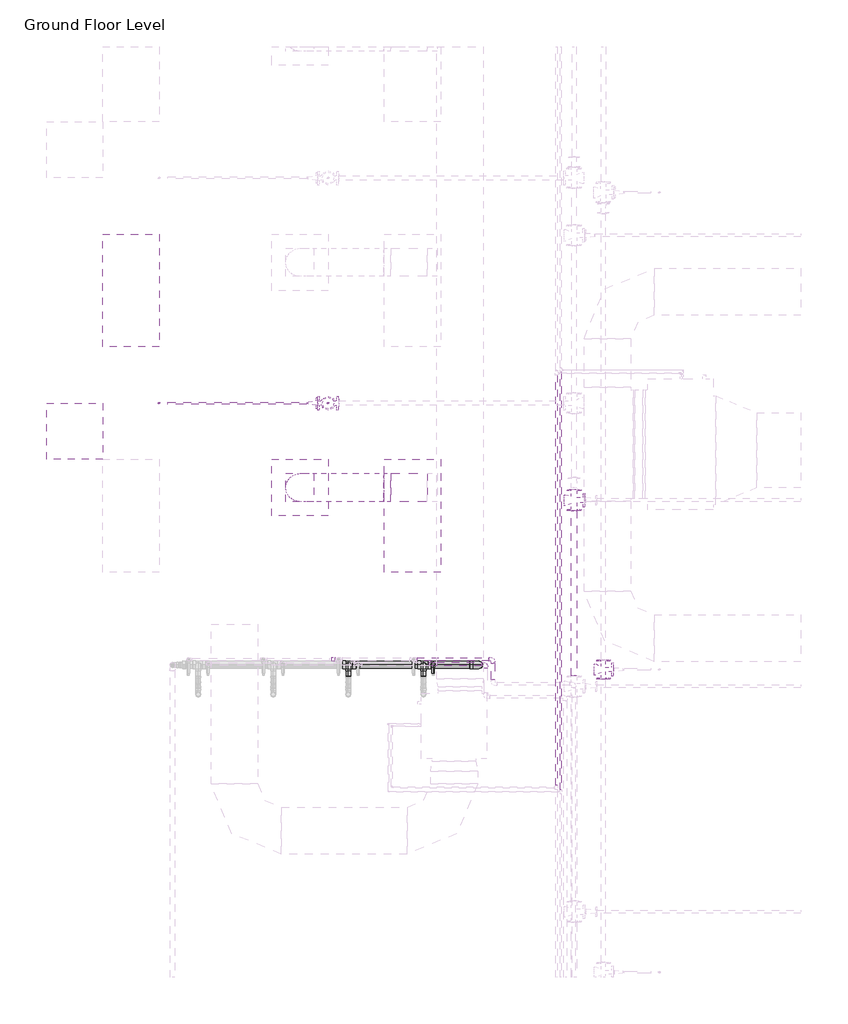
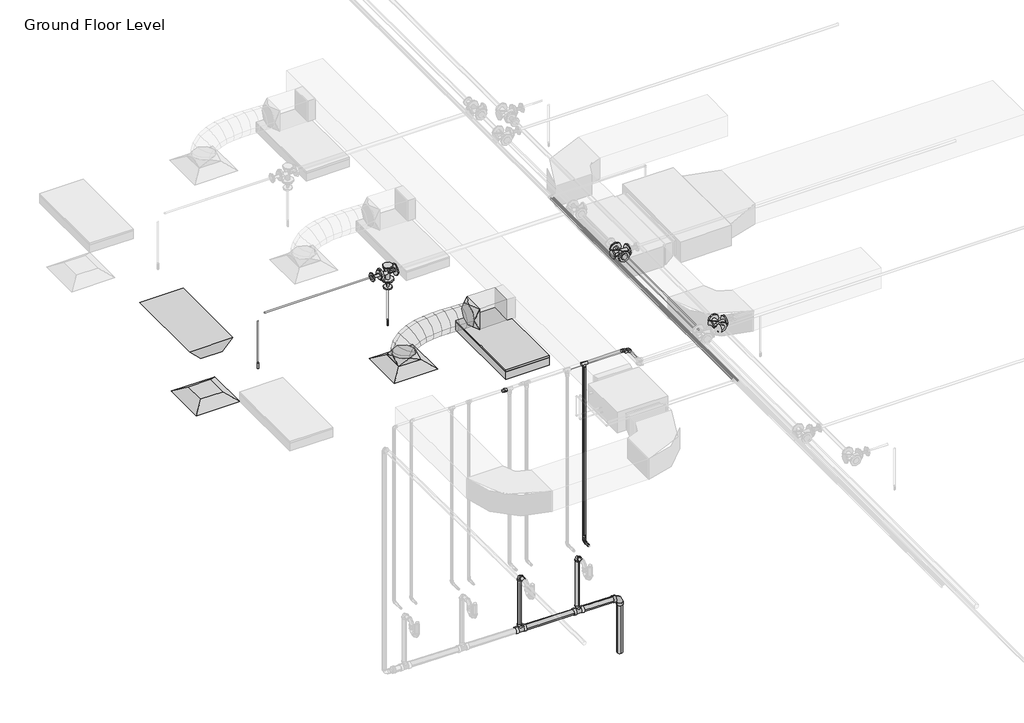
# One storey, part 25 of 75: 18 pipe segments, 16 pipe fittings, 2 air terminals, 2 duct fittings, 2 duct segments, 2 fire suppression terminals, 2 light fixtures.
"""IFC4 building model written with IfcOpenShell, lengths in millimetres."""

from ifc_helpers import new_model, si_unit, point, frame, frame_2d, origin, place, context, project, spatial, polyline, circle_curve, ellipse_curve, trimmed, segment, composite_curve, outline, extrude, transform, mapped, element, save
from ifc_brep_helpers import plane_surface, cylinder_surface, advanced_brep
from components import m_return_diffuser_600_x_600_face_300_x_300_connection_ff221211, m_rectangular_to_round_transition_angle_45_degree_641efff0, m_sprinkler_dry_pendent_hosted_15_mm_dry_pendent_9bda8e11, m_emergency_recessed_lighting_fixture_600x1200_277_5b10b25d, m_troffer_light_parabolic_rectangular1_0600x1200mm_4_lamp_86473d4a, m_bend_pvc_sch_40_dwv_standard_0eeb11e1, m_bend_pvc_sch_40_dwv_standard_1e7bdcc1, m_bend_pvc_sch_40_dwv_standard_b3f66ba9, m_reducer_flanged_cs_class_150_standard_dc68ad9d, m_tee_reducing_sanitary_pvc_sch_40_dwv_standard_21d2848c, m_tee_round_base_flanged_cs_class_150_standard_dd767e04, m_tee_round_base_flanged_cs_class_150_standard_9c9133d0, m_tee_round_base_flanged_cs_class_150_standard_ab36f383, standard_b266ab3f, standard_517a5a8d, standard_72b35c3b, standard_c7dcb452, standard_e5aa6446

model = new_model("IFC4")

# Units and contexts
model_context = context("Model", 3, world=origin())
ifc_project = project(units=[si_unit("LENGTHUNIT", "METRE", prefix="MILLI")], contexts=[model_context])

# Site, building, storey
site = spatial("IfcSite", under=ifc_project)
building = spatial("IfcBuilding", under=site)
storey = spatial("IfcBuildingStorey", under=building, Name="Ground Floor Level", Elevation=900.0)

# Air terminals
placement = place(None, origin())
m_return_diffuser_600_x_600_face_300_x_300_connection_shape = m_return_diffuser_600_x_600_face_300_x_300_connection_ff221211(model_context)
element("IfcAirTerminal", 1, ObjectType="M_Return Diffuser : 600 x 600 Face 300 x 300 Connection", at=placement, inside=storey, context=model_context, shape_type="MappedRepresentation", body=[
    mapped(m_return_diffuser_600_x_600_face_300_x_300_connection_shape, transform((362.7672395, -21364.7846466, 3650.0), x_axis=(1.0, 0.0, 0.0), y_axis=(0.0, 1.0, 0.0), z_axis=(0.0, 0.0, 1.0))),
])
element("IfcAirTerminal", 2, ObjectType="M_Supply Diffuser : 600 x 600 Face 300 x 300 Connection", at=placement, inside=storey, context=model_context, shape_type="MappedRepresentation", body=[
    mapped(m_return_diffuser_600_x_600_face_300_x_300_connection_shape, transform((2762.7672395, -21964.7846466, 3650.0), x_axis=(1.0, 0.0, 0.0), y_axis=(0.0, 1.0, 0.0), z_axis=(0.0, 0.0, 1.0))),
])

# Duct fittings
m_rectangular_to_round_transition_angle_45_degree_shape = m_rectangular_to_round_transition_angle_45_degree_641efff0(model_context)
element("IfcDuctFitting", 3, ObjectType="M_Rectangular to Round Transition - Angle : 45 Degree", at=placement, inside=storey, context=model_context, shape_type="MappedRepresentation", body=[
    mapped(m_rectangular_to_round_transition_angle_45_degree_shape, transform((2762.7672395, -21964.7846466, 3751.6), x_axis=(0.0, 0.0, 1.0), y_axis=(-1.0, 0.0, 0.0), z_axis=(0.0, -1.0, 0.0))),
])
element("IfcDuctFitting", 4, ObjectType="M_Rectangular to Round Transition - Angle : 45 Degree", at=placement, inside=storey, context=model_context, shape_type="MappedRepresentation", body=[
    mapped(m_rectangular_to_round_transition_angle_45_degree_shape, transform((3732.9512129, -21964.7846466, 4057.1519579), x_axis=(-1.0, 0.0, 0.0), y_axis=(0.0, -1.0, 0.0), z_axis=(0.0, 0.0, 1.0))),
])

# Duct segments
element("IfcDuctSegment", 5, ObjectType="Flex - Round", at=placement, inside=storey, context=model_context, shape_type="AdvancedBrep", body=[
    advanced_brep(
    [(2912.7672395, -21964.7846466, 3826.6), (2762.7672395, -22114.7846466, 3826.6), (2612.7672395, -21964.7846466, 3826.6), (2762.7672395, -21814.7846466, 3826.6), (2912.7672395, -21964.7846466, 3832.8904143), (2762.7672395, -22114.7846466, 3856.8494149), (2612.7672395, -21964.7846466, 3880.8084155), (2762.7672395, -21814.7846466, 3856.8494149), (2914.0859082, -21964.7846466, 3836.9129923), (2779.5128239, -22114.7846466, 3907.9315565), (2644.9397396, -21964.7846466, 3978.9501208), (2779.5128239, -21814.7846466, 3907.9315565), (2928.1338147, -21964.7846466, 3855.2244817), (2826.2856906, -22114.7846466, 3968.9001322), (2724.4375665, -21964.7846466, 4082.5757828), (2826.2856906, -21814.7846466, 3968.9001322), (2960.075367, -21964.7846466, 3874.5779986), (2897.8900097, -22114.7846466, 4012.2854816), (2835.7046525, -21964.7846466, 4149.9929645), (2897.8900097, -21814.7846466, 4012.2854816), (3023.3471395, -21964.7846466, 3894.3985509), (2989.1299517, -22114.7846466, 4040.8673589), (2954.9127638, -21964.7846466, 4187.3361668), (2989.1299517, -21814.7846466, 4040.8673589), (3111.2174774, -21964.7846466, 3908.1662907), (3094.8096865, -22114.7846466, 4057.4255186), (3078.4018957, -21964.7846466, 4206.6847465), (3094.8096865, -21814.7846466, 4057.4255186), (3215.0370803, -21964.7846466, 3914.773779), (3209.7333846, -22114.7846466, 4064.7397152), (3204.4296888, -21964.7846466, 4214.7056514), (3209.7333846, -21814.7846466, 4064.7397152), (3327.4369923, -21964.7846466, 3915.576814), (3328.705216, -22114.7846466, 4065.589703), (3329.9734397, -21964.7846466, 4215.6025919), (3328.705216, -21814.7846466, 4065.589703), (3442.2113611, -21964.7846466, 3912.815715), (3446.529351, -22114.7846466, 4062.7552364), (3450.847341, -21964.7846466, 4212.6947579), (3446.529351, -21814.7846466, 4062.7552364), (3554.0566752, -21964.7846466, 3909.0643159), (3558.0099599, -22114.7846466, 4059.0160699), (3561.9632447, -21964.7846466, 4208.9678239), (3558.0099599, -21814.7846466, 4059.0160699), (3657.9512129, -21964.7846466, 3907.1519579), (3657.9512129, -21814.7846466, 4057.1519579), (3657.9512129, -21964.7846466, 4207.1519579), (3657.9512129, -22114.7846466, 4057.1519579), (3653.7148319, -21964.7846466, 3907.1519579), (3655.1538878, -22114.7846466, 4057.1519579), (3656.5929436, -21964.7846466, 4207.1519579), (3655.1538878, -21814.7846466, 4057.1519579)],
    [
        (0, 1, circle_curve(frame((2762.7672395, -21964.7846466, 3826.6), z_axis=(0.0, 0.0, -1.0), x_axis=(1.0, 0.0, 0.0)), 150.0)),
        (1, 2, circle_curve(frame((2762.7672395, -21964.7846466, 3826.6), z_axis=(0.0, 0.0, -1.0), x_axis=(1.0, 0.0, 0.0)), 150.0)),
        (2, 3, circle_curve(frame((2762.7672395, -21964.7846466, 3826.6), z_axis=(0.0, 0.0, -1.0), x_axis=(1.0, 0.0, 0.0)), 150.0)),
        (3, 0, circle_curve(frame((2762.7672395, -21964.7846466, 3826.6), z_axis=(0.0, 0.0, -1.0), x_axis=(1.0, 0.0, 0.0)), 150.0)),
        (0, 4),
        (4, 5, ellipse_curve(frame((2762.7672395, -21964.7846466, 3856.8494149), z_axis=(-0.1577273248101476, 0.0, -0.9874827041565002), x_axis=(0.9874827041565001, 0.0, -0.1577273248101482)), 151.9013947, 150.0)),
        (5, 1),
        (5, 6, ellipse_curve(frame((2762.7672395, -21964.7846466, 3856.8494149), z_axis=(-0.1577273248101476, 0.0, -0.9874827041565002), x_axis=(0.9874827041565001, 0.0, -0.1577273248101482)), 151.9013947, 150.0)),
        (6, 2),
        (6, 7, ellipse_curve(frame((2762.7672395, -21964.7846466, 3856.8494149), z_axis=(-0.1577273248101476, 0.0, -0.9874827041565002), x_axis=(0.9874827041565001, 0.0, -0.1577273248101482)), 151.9013947, 150.0)),
        (7, 3),
        (7, 4, ellipse_curve(frame((2762.7672395, -21964.7846466, 3856.8494149), z_axis=(-0.1577273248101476, 0.0, -0.9874827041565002), x_axis=(0.9874827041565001, 0.0, -0.1577273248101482)), 151.9013947, 150.0)),
        (4, 8),
        (8, 9, ellipse_curve(frame((2779.5128239, -21964.7846466, 3907.9315565), z_axis=(-0.46672716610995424, 0.0, -0.8844013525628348), x_axis=(0.8844013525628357, 0.0, -0.466727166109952)), 152.162911, 150.0)),
        (9, 5),
        (9, 10, ellipse_curve(frame((2779.5128239, -21964.7846466, 3907.9315565), z_axis=(-0.46672716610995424, 0.0, -0.8844013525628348), x_axis=(0.8844013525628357, 0.0, -0.466727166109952)), 152.162911, 150.0)),
        (10, 6),
        (10, 11, ellipse_curve(frame((2779.5128239, -21964.7846466, 3907.9315565), z_axis=(-0.46672716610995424, 0.0, -0.8844013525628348), x_axis=(0.8844013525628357, 0.0, -0.466727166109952)), 152.162911, 150.0)),
        (11, 7),
        (11, 8, ellipse_curve(frame((2779.5128239, -21964.7846466, 3907.9315565), z_axis=(-0.46672716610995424, 0.0, -0.8844013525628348), x_axis=(0.8844013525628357, 0.0, -0.466727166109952)), 152.162911, 150.0)),
        (8, 12),
        (12, 13, ellipse_curve(frame((2826.2856906, -21964.7846466, 3968.9001322), z_axis=(-0.744790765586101, 0.0, -0.6672980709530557), x_axis=(0.6672980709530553, 0.0, -0.7447907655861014)), 152.6276316, 150.0)),
        (13, 9),
        (13, 14, ellipse_curve(frame((2826.2856906, -21964.7846466, 3968.9001322), z_axis=(-0.744790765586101, 0.0, -0.6672980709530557), x_axis=(0.6672980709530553, 0.0, -0.7447907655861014)), 152.6276316, 150.0)),
        (14, 10),
        (14, 15, ellipse_curve(frame((2826.2856906, -21964.7846466, 3968.9001322), z_axis=(-0.744790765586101, 0.0, -0.6672980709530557), x_axis=(0.6672980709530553, 0.0, -0.7447907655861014)), 152.6276316, 150.0)),
        (15, 11),
        (15, 12, ellipse_curve(frame((2826.2856906, -21964.7846466, 3968.9001322), z_axis=(-0.744790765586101, 0.0, -0.6672980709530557), x_axis=(0.6672980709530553, 0.0, -0.7447907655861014)), 152.6276316, 150.0)),
        (12, 16),
        (16, 17, ellipse_curve(frame((2897.8900097, -21964.7846466, 4012.2854816), z_axis=(-0.9113833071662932, 0.0, -0.41155858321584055), x_axis=(0.41155858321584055, 0.0, -0.9113833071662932)), 151.0972187, 150.0)),
        (17, 13),
        (17, 18, ellipse_curve(frame((2897.8900097, -21964.7846466, 4012.2854816), z_axis=(-0.9113833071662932, 0.0, -0.41155858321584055), x_axis=(0.41155858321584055, 0.0, -0.9113833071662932)), 151.0972187, 150.0)),
        (18, 14),
        (18, 19, ellipse_curve(frame((2897.8900097, -21964.7846466, 4012.2854816), z_axis=(-0.9113833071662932, 0.0, -0.41155858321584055), x_axis=(0.41155858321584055, 0.0, -0.9113833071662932)), 151.0972187, 150.0)),
        (19, 15),
        (19, 16, ellipse_curve(frame((2897.8900097, -21964.7846466, 4012.2854816), z_axis=(-0.9113833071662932, 0.0, -0.41155858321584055), x_axis=(0.41155858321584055, 0.0, -0.9113833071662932)), 151.0972187, 150.0)),
        (16, 20),
        (20, 21, ellipse_curve(frame((2989.1299517, -21964.7846466, 4040.8673589), z_axis=(-0.9737806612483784, 0.0, -0.22748895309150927), x_axis=(0.22748895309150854, 0.0, -0.9737806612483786)), 150.4125249, 150.0)),
        (21, 17),
        (21, 22, ellipse_curve(frame((2989.1299517, -21964.7846466, 4040.8673589), z_axis=(-0.9737806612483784, 0.0, -0.22748895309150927), x_axis=(0.22748895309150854, 0.0, -0.9737806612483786)), 150.4125249, 150.0)),
        (22, 18),
        (22, 23, ellipse_curve(frame((2989.1299517, -21964.7846466, 4040.8673589), z_axis=(-0.9737806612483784, 0.0, -0.22748895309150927), x_axis=(0.22748895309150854, 0.0, -0.9737806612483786)), 150.4125249, 150.0)),
        (23, 19),
        (23, 20, ellipse_curve(frame((2989.1299517, -21964.7846466, 4040.8673589), z_axis=(-0.9737806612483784, 0.0, -0.22748895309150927), x_axis=(0.22748895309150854, 0.0, -0.9737806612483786)), 150.4125249, 150.0)),
        (20, 24),
        (24, 25, ellipse_curve(frame((3094.8096865, -21964.7846466, 4057.4255186), z_axis=(-0.9940121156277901, 0.0, -0.109269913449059), x_axis=(0.10926991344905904, 0.0, -0.9940121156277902)), 150.1583588, 150.0)),
        (25, 21),
        (25, 26, ellipse_curve(frame((3094.8096865, -21964.7846466, 4057.4255186), z_axis=(-0.9940121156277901, 0.0, -0.109269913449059), x_axis=(0.10926991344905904, 0.0, -0.9940121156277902)), 150.1583588, 150.0)),
        (26, 22),
        (26, 27, ellipse_curve(frame((3094.8096865, -21964.7846466, 4057.4255186), z_axis=(-0.9940121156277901, 0.0, -0.109269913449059), x_axis=(0.10926991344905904, 0.0, -0.9940121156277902)), 150.1583588, 150.0)),
        (27, 23),
        (27, 24, ellipse_curve(frame((3094.8096865, -21964.7846466, 4057.4255186), z_axis=(-0.9940121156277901, 0.0, -0.109269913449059), x_axis=(0.10926991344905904, 0.0, -0.9940121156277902)), 150.1583588, 150.0)),
        (24, 28),
        (28, 29, ellipse_curve(frame((3209.7333846, -21964.7846466, 4064.7397152), z_axis=(-0.9993752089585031, 0.0, -0.035343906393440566), x_axis=(0.035343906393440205, 0.0, -0.9993752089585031)), 150.0596922, 150.0)),
        (29, 25),
        (29, 30, ellipse_curve(frame((3209.7333846, -21964.7846466, 4064.7397152), z_axis=(-0.9993752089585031, 0.0, -0.035343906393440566), x_axis=(0.035343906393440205, 0.0, -0.9993752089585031)), 150.0596922, 150.0)),
        (30, 26),
        (30, 31, ellipse_curve(frame((3209.7333846, -21964.7846466, 4064.7397152), z_axis=(-0.9993752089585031, 0.0, -0.035343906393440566), x_axis=(0.035343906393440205, 0.0, -0.9993752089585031)), 150.0596922, 150.0)),
        (31, 27),
        (31, 28, ellipse_curve(frame((3209.7333846, -21964.7846466, 4064.7397152), z_axis=(-0.9993752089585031, 0.0, -0.035343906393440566), x_axis=(0.035343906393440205, 0.0, -0.9993752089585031)), 150.0596922, 150.0)),
        (28, 32),
        (32, 33, ellipse_curve(frame((3328.705216, -21964.7846466, 4065.589703), z_axis=(-0.9999642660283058, 0.0, 0.008453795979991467), x_axis=(-0.00845379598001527, 0.0, -0.9999642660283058)), 150.0182497, 150.0)),
        (33, 29),
        (33, 34, ellipse_curve(frame((3328.705216, -21964.7846466, 4065.589703), z_axis=(-0.9999642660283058, 0.0, 0.008453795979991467), x_axis=(-0.00845379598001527, 0.0, -0.9999642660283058)), 150.0182497, 150.0)),
        (34, 30),
        (34, 35, ellipse_curve(frame((3328.705216, -21964.7846466, 4065.589703), z_axis=(-0.9999642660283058, 0.0, 0.008453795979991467), x_axis=(-0.00845379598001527, 0.0, -0.9999642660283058)), 150.0182497, 150.0)),
        (35, 31),
        (35, 32, ellipse_curve(frame((3328.705216, -21964.7846466, 4065.589703), z_axis=(-0.9999642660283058, 0.0, 0.008453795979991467), x_axis=(-0.00845379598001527, 0.0, -0.9999642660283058)), 150.0182497, 150.0)),
        (32, 36),
        (36, 37, ellipse_curve(frame((3446.529351, -21964.7846466, 4062.7552364), z_axis=(-0.9995855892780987, 0.0, 0.028786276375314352), x_axis=(-0.028786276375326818, 0.0, -0.9995855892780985)), 150.0016838, 150.0)),
        (37, 33),
        (37, 38, ellipse_curve(frame((3446.529351, -21964.7846466, 4062.7552364), z_axis=(-0.9995855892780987, 0.0, 0.028786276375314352), x_axis=(-0.028786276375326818, 0.0, -0.9995855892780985)), 150.0016838, 150.0)),
        (38, 34),
        (38, 39, ellipse_curve(frame((3446.529351, -21964.7846466, 4062.7552364), z_axis=(-0.9995855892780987, 0.0, 0.028786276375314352), x_axis=(-0.028786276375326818, 0.0, -0.9995855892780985)), 150.0016838, 150.0)),
        (39, 35),
        (39, 36, ellipse_curve(frame((3446.529351, -21964.7846466, 4062.7552364), z_axis=(-0.9995855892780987, 0.0, 0.028786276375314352), x_axis=(-0.028786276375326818, 0.0, -0.9995855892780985)), 150.0016838, 150.0)),
        (36, 40),
        (40, 41, ellipse_curve(frame((3558.0099599, -21964.7846466, 4059.0160699), z_axis=(-0.999652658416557, 0.0, 0.026354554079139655), x_axis=(0.026354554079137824, 0.0, 0.9996526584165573)), 150.0038566, 150.0)),
        (41, 37),
        (41, 42, ellipse_curve(frame((3558.0099599, -21964.7846466, 4059.0160699), z_axis=(-0.999652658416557, 0.0, 0.026354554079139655), x_axis=(0.026354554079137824, 0.0, 0.9996526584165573)), 150.0038566, 150.0)),
        (42, 38),
        (42, 43, ellipse_curve(frame((3558.0099599, -21964.7846466, 4059.0160699), z_axis=(-0.999652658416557, 0.0, 0.026354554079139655), x_axis=(0.026354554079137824, 0.0, 0.9996526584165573)), 150.0038566, 150.0)),
        (43, 39),
        (43, 40, ellipse_curve(frame((3558.0099599, -21964.7846466, 4059.0160699), z_axis=(-0.999652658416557, 0.0, 0.026354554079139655), x_axis=(0.026354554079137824, 0.0, 0.9996526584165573)), 150.0038566, 150.0)),
        (44, 45, circle_curve(frame((3657.9512129, -21964.7846466, 4057.1519579), z_axis=(1.0, 0.0, 0.0), x_axis=(0.0, 0.0, -1.0)), 150.0)),
        (45, 46, circle_curve(frame((3657.9512129, -21964.7846466, 4057.1519579), z_axis=(1.0, 0.0, 0.0), x_axis=(0.0, 0.0, -1.0)), 150.0)),
        (46, 47, circle_curve(frame((3657.9512129, -21964.7846466, 4057.1519579), z_axis=(1.0, 0.0, 0.0), x_axis=(0.0, 0.0, -1.0)), 150.0)),
        (47, 44, circle_curve(frame((3657.9512129, -21964.7846466, 4057.1519579), z_axis=(1.0, 0.0, 0.0), x_axis=(0.0, 0.0, -1.0)), 150.0)),
        (40, 48),
        (48, 49, ellipse_curve(frame((3655.1538878, -21964.7846466, 4057.1519579), z_axis=(-0.9999539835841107, 0.0, 0.009593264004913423), x_axis=(0.009593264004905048, 0.0, 0.9999539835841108)), 150.0069028, 150.0)),
        (49, 41),
        (49, 50, ellipse_curve(frame((3655.1538878, -21964.7846466, 4057.1519579), z_axis=(-0.9999539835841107, 0.0, 0.009593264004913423), x_axis=(0.009593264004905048, 0.0, 0.9999539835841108)), 150.0069028, 150.0)),
        (50, 42),
        (50, 51, ellipse_curve(frame((3655.1538878, -21964.7846466, 4057.1519579), z_axis=(-0.9999539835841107, 0.0, 0.009593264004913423), x_axis=(0.009593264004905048, 0.0, 0.9999539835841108)), 150.0069028, 150.0)),
        (51, 43),
        (51, 48, ellipse_curve(frame((3655.1538878, -21964.7846466, 4057.1519579), z_axis=(-0.9999539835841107, 0.0, 0.009593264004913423), x_axis=(0.009593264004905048, 0.0, 0.9999539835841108)), 150.0069028, 150.0)),
        (48, 44),
        (47, 49),
        (46, 50),
        (45, 51),
    ],
    [
        plane_surface(frame((2762.7672395, -22114.7846466, 3826.6), z_axis=(0.0, 0.0, -1.0), x_axis=(1.0, 0.0, 0.0))),
        cylinder_surface(frame((2762.7672395, -21964.7846466, 3826.6), z_axis=(0.0, 0.0, -1.0), x_axis=(1.0, 0.0, 0.0)), 150.0),
        cylinder_surface(frame((2762.7672395, -21964.7846466, 3856.8494149), z_axis=(-0.3115060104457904, 0.0, -0.9502441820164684), x_axis=(0.9502441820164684, 0.0, -0.3115060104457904)), 150.0),
        cylinder_surface(frame((2779.5128239, -21964.7846466, 3907.9315565), z_axis=(-0.6086797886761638, 0.0, -0.7934159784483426), x_axis=(0.7934159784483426, 0.0, -0.6086797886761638)), 150.0),
        cylinder_surface(frame((2826.2856906, -21964.7846466, 3968.9001322), z_axis=(-0.8552571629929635, 0.0, -0.5182038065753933), x_axis=(0.5182038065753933, 0.0, -0.8552571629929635)), 150.0),
        cylinder_surface(frame((2897.8900097, -21964.7846466, 4012.2854816), z_axis=(-0.9542731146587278, 0.0, -0.29893615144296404), x_axis=(0.29893615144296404, 0.0, -0.9542731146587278)), 150.0),
        cylinder_surface(frame((2989.1299517, -21964.7846466, 4040.8673589), z_axis=(-0.9879467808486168, 0.0, -0.15479392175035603), x_axis=(0.15479392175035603, 0.0, -0.9879467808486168)), 150.0),
        cylinder_surface(frame((3094.8096865, -21964.7846466, 4057.4255186), z_axis=(-0.997980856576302, 0.0, -0.06351543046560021), x_axis=(0.06351543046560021, 0.0, -0.997980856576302)), 150.0),
        cylinder_surface(frame((3209.7333846, -21964.7846466, 4064.7397152), z_axis=(-0.9999744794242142, 0.0, -0.007144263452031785), x_axis=(0.007144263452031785, 0.0, -0.9999744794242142)), 150.0),
        cylinder_surface(frame((3328.705216, -21964.7846466, 4065.589703), z_axis=(-0.9997107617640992, 0.0, 0.024049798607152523), x_axis=(-0.024049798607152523, 0.0, -0.9997107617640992)), 150.0),
        cylinder_surface(frame((3446.529351, -21964.7846466, 4062.7552364), z_axis=(-0.9994379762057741, 0.0, 0.03352210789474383), x_axis=(-0.03352210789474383, 0.0, -0.9994379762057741)), 150.0),
        plane_surface(frame((3657.9512129, -21964.7846466, 3907.1519579), z_axis=(1.0, 0.0, 0.0), x_axis=(0.0, 1.0, 0.0))),
        cylinder_surface(frame((3558.0099599, -21964.7846466, 4059.0160699), z_axis=(-0.9998159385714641, 0.0, 0.01918564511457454), x_axis=(-0.01918564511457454, 0.0, -0.9998159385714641)), 150.0),
        cylinder_surface(frame((3655.1538878, -21964.7846466, 4057.1519579), z_axis=(-1.0, 0.0, 0.0), x_axis=(0.0, 0.0, -1.0)), 150.0),
    ],
    [
        (0, [[1, 2, 3, 4]]),
        (1, [[-1, 5, 6, 7]]),
        (1, [[-2, -7, 8, 9]]),
        (1, [[-3, -9, 10, 11]]),
        (1, [[-4, -11, 12, -5]]),
        (2, [[-6, 13, 14, 15]]),
        (2, [[-8, -15, 16, 17]]),
        (2, [[-10, -17, 18, 19]]),
        (2, [[-12, -19, 20, -13]]),
        (3, [[-14, 21, 22, 23]]),
        (3, [[-16, -23, 24, 25]]),
        (3, [[-18, -25, 26, 27]]),
        (3, [[-20, -27, 28, -21]]),
        (4, [[-22, 29, 30, 31]]),
        (4, [[-24, -31, 32, 33]]),
        (4, [[-26, -33, 34, 35]]),
        (4, [[-28, -35, 36, -29]]),
        (5, [[-30, 37, 38, 39]]),
        (5, [[-32, -39, 40, 41]]),
        (5, [[-34, -41, 42, 43]]),
        (5, [[-36, -43, 44, -37]]),
        (6, [[-38, 45, 46, 47]]),
        (6, [[-40, -47, 48, 49]]),
        (6, [[-42, -49, 50, 51]]),
        (6, [[-44, -51, 52, -45]]),
        (7, [[-46, 53, 54, 55]]),
        (7, [[-48, -55, 56, 57]]),
        (7, [[-50, -57, 58, 59]]),
        (7, [[-52, -59, 60, -53]]),
        (8, [[-54, 61, 62, 63]]),
        (8, [[-56, -63, 64, 65]]),
        (8, [[-58, -65, 66, 67]]),
        (8, [[-60, -67, 68, -61]]),
        (9, [[-62, 69, 70, 71]]),
        (9, [[-64, -71, 72, 73]]),
        (9, [[-66, -73, 74, 75]]),
        (9, [[-68, -75, 76, -69]]),
        (10, [[-70, 77, 78, 79]]),
        (10, [[-72, -79, 80, 81]]),
        (10, [[-74, -81, 82, 83]]),
        (10, [[-76, -83, 84, -77]]),
        (11, [[85, 86, 87, 88]]),
        (12, [[-78, 89, 90, 91]]),
        (12, [[-80, -91, 92, 93]]),
        (12, [[-82, -93, 94, 95]]),
        (12, [[-84, -95, 96, -89]]),
        (13, [[-90, 97, -88, 98]]),
        (13, [[-92, -98, -87, 99]]),
        (13, [[-94, -99, -86, 100]]),
        (13, [[-96, -100, -85, -97]]),
    ],
),
])
element("IfcDuctSegment", 6, ObjectType="Radius Elbows / Taps", at=placement, inside=storey, context=model_context, shape_type="SweptSolid", body=[
    extrude(outline(polyline([(4117.5581832, -21814.7846466), (4117.5581832, -22114.7846466), (3732.9512129, -22114.7846466), (3732.9512129, -21814.7846466), (4117.5581832, -21814.7846466)])), frame((0.0, 0.0, 3907.1519579), z_axis=(0.0, 0.0, 1.0), x_axis=(1.0, 0.0, 0.0)), (0.0, 0.0, 1.0), 300.0),
])

# Fire suppression terminals
m_sprinkler_dry_pendent_hosted_15_mm_dry_pendent_shape = m_sprinkler_dry_pendent_hosted_15_mm_dry_pendent_9bda8e11(model_context)
element("IfcFireSuppressionTerminal", 7, ObjectType="M_Sprinkler - Dry - Pendent - Hosted : 15 mm Dry Pendent", at=placement, inside=storey, context=model_context, shape_type="MappedRepresentation", body=[
    mapped(m_sprinkler_dry_pendent_hosted_15_mm_dry_pendent_shape, transform((1262.7672395, -21064.7846466, 3650.0), x_axis=(1.0, 0.0, 0.0), y_axis=(0.0, -1.0, 0.0), z_axis=(0.0, 0.0, -1.0))),
])
element("IfcFireSuppressionTerminal", 8, ObjectType="M_Sprinkler - Dry - Pendent - Hosted : 15 mm Dry Pendent", at=placement, inside=storey, context=model_context, shape_type="MappedRepresentation", body=[
    mapped(m_sprinkler_dry_pendent_hosted_15_mm_dry_pendent_shape, transform((3062.7672395, -21064.7846466, 3650.0), x_axis=(1.0, 0.0, 0.0), y_axis=(0.0, -1.0, 0.0), z_axis=(0.0, 0.0, -1.0))),
])

# Light fixtures
m_emergency_recessed_lighting_fixture_600x1200_277_shape = m_emergency_recessed_lighting_fixture_600x1200_277_5b10b25d(model_context)
element("IfcLightFixture", 9, ObjectType="M_Emergency Recessed Lighting Fixture : 600x1200 - 277", at=placement, inside=storey, context=model_context, shape_type="MappedRepresentation", body=[
    mapped(m_emergency_recessed_lighting_fixture_600x1200_277_shape, transform((662.7672395, -20464.7846466, 3650.0), x_axis=(0.0, 1.0, 0.0), y_axis=(-1.0, 0.0, 0.0), z_axis=(0.0, 0.0, 1.0))),
])
m_troffer_light_parabolic_rectangular1_0600x1200mm_4_lamp_shape = m_troffer_light_parabolic_rectangular1_0600x1200mm_4_lamp_86473d4a(model_context)
element("IfcLightFixture", 10, ObjectType="M_Troffer Light - Parabolic Rectangular1 : 0600x1200mm(4 Lamp) - 277V 2", at=placement, inside=storey, context=model_context, shape_type="MappedRepresentation", body=[
    mapped(m_troffer_light_parabolic_rectangular1_0600x1200mm_4_lamp_shape, transform((3903.3013074, -22246.081145, 3650.0), x_axis=(0.0, 1.0, 0.0), y_axis=(-1.0, 0.0, 0.0), z_axis=(0.0, 0.0, 1.0))),
])

# Pipe fittings
m_bend_pvc_sch_40_dwv_standard_shape = m_bend_pvc_sch_40_dwv_standard_0eeb11e1(model_context)
element("IfcPipeFitting", 11, ObjectType="M_Bend - PVC - Sch 40 - DWV : Standard", at=placement, inside=storey, context=model_context, shape_type="MappedRepresentation", body=[
    mapped(m_bend_pvc_sch_40_dwv_standard_shape, transform((4671.3267974, -23854.2948449, 706.9937306), x_axis=(0.9999500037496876, 0.0, -0.009999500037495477), y_axis=(-0.009999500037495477, 0.0, -0.9999500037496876), z_axis=(0.0, 1.0, 0.0))),
])
m_bend_pvc_sch_40_dwv_standard_2_shape = m_bend_pvc_sch_40_dwv_standard_1e7bdcc1(model_context)
element("IfcPipeFitting", 12, ObjectType="M_Bend - PVC - Sch 40 - DWV : Standard", at=placement, inside=storey, context=model_context, shape_type="MappedRepresentation", body=[
    mapped(m_bend_pvc_sch_40_dwv_standard_2_shape, transform((4079.14976, -23854.2948449, 1508.2594199), x_axis=(0.0, 0.9999500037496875, -0.00999950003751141), y_axis=(0.0, -0.00999950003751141, -0.9999500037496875), z_axis=(-1.0, 0.0, 0.0))),
])
m_bend_pvc_sch_40_dwv_standard_3_shape = m_bend_pvc_sch_40_dwv_standard_b3f66ba9(model_context)
element("IfcPipeFitting", 13, ObjectType="M_Bend - PVC - Sch 40 - DWV : Standard", at=placement, inside=storey, context=model_context, shape_type="MappedRepresentation", body=[
    mapped(m_bend_pvc_sch_40_dwv_standard_3_shape, transform((3279.14976, -23854.2948449, 1508.2594199), x_axis=(0.0, 0.9999578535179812, -0.009181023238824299), y_axis=(0.0, -0.009181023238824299, -0.9999578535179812), z_axis=(-1.0, 0.0, 0.0))),
])
m_reducer_flanged_cs_class_150_standard_shape = m_reducer_flanged_cs_class_150_standard_dc68ad9d(model_context)
element("IfcPipeFitting", 14, ObjectType="M_Reducer - Flanged - CS - Class 150 : Standard", at=placement, inside=storey, context=model_context, shape_type="MappedRepresentation", body=[
    mapped(m_reducer_flanged_cs_class_150_standard_shape, transform((2950.5086457, -21064.7846466, 4347.5), x_axis=(-1.0, 0.0, 0.0), y_axis=(0.0, 0.0, 1.0), z_axis=(0.0, 1.0, 0.0))),
])
element("IfcPipeFitting", 15, ObjectType="M_Reducer - Flanged - CS - Class 150 : Standard", at=placement, inside=storey, context=model_context, shape_type="MappedRepresentation", body=[
    mapped(m_reducer_flanged_cs_class_150_standard_shape, transform((3062.7672395, -21064.7846466, 4235.2414062), x_axis=(0.0, 0.0, -1.0), y_axis=(-1.0, 0.0, 0.0), z_axis=(0.0, 1.0, 0.0))),
])
m_tee_reducing_sanitary_pvc_sch_40_dwv_standard_shape = m_tee_reducing_sanitary_pvc_sch_40_dwv_standard_21d2848c(model_context)
element("IfcPipeFitting", 16, ObjectType="M_Tee Reducing Sanitary - PVC - Sch 40 - DWV : Standard", at=placement, inside=storey, context=model_context, shape_type="MappedRepresentation", body=[
    mapped(m_tee_reducing_sanitary_pvc_sch_40_dwv_standard_shape, transform((3279.3782372, -23854.2948449, 721.0632162), x_axis=(-0.9999500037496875, 0.0, 0.009999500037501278), y_axis=(-0.009999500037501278, 0.0, -0.9999500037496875), z_axis=(0.0, -1.0, 0.0))),
])
element("IfcPipeFitting", 17, ObjectType="M_Tee Reducing Sanitary - PVC - Sch 40 - DWV : Standard", at=placement, inside=storey, context=model_context, shape_type="MappedRepresentation", body=[
    mapped(m_tee_reducing_sanitary_pvc_sch_40_dwv_standard_shape, transform((4079.3782372, -23854.2948449, 713.0632162), x_axis=(-0.9999500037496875, 0.0, 0.00999950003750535), y_axis=(-0.00999950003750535, 0.0, -0.9999500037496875), z_axis=(0.0, -1.0, 0.0))),
])
m_tee_round_base_flanged_cs_class_150_standard_shape = m_tee_round_base_flanged_cs_class_150_standard_dd767e04(model_context)
element("IfcPipeFitting", 18, ObjectType="M_Tee Round Base - Flanged - CS - Class 150 : Standard", at=placement, inside=storey, context=model_context, shape_type="MappedRepresentation", body=[
    mapped(m_tee_round_base_flanged_cs_class_150_standard_shape, transform((5684.6174894, -22098.0287346, 4347.5), x_axis=(0.0, -1.0, 0.0), y_axis=(-1.0, 0.0, 0.0), z_axis=(0.0, 0.0, -1.0))),
])
m_tee_round_base_flanged_cs_class_150_standard_2_shape = m_tee_round_base_flanged_cs_class_150_standard_9c9133d0(model_context)
element("IfcPipeFitting", 19, ObjectType="M_Tee Round Base - Flanged - CS - Class 150 : Standard", at=placement, inside=storey, context=model_context, shape_type="MappedRepresentation", body=[
    mapped(m_tee_round_base_flanged_cs_class_150_standard_2_shape, transform((5997.057812, -23903.6779349, 4291.0943441), x_axis=(0.0, 1.0, 0.0), y_axis=(-1.0, 0.0, 0.0), z_axis=(0.0, 0.0, 1.0))),
])
m_tee_round_base_flanged_cs_class_150_standard_3_shape = m_tee_round_base_flanged_cs_class_150_standard_ab36f383(model_context)
element("IfcPipeFitting", 20, ObjectType="M_Tee Round Base - Flanged - CS - Class 150 : Standard", at=placement, inside=storey, context=model_context, shape_type="MappedRepresentation", body=[
    mapped(m_tee_round_base_flanged_cs_class_150_standard_3_shape, transform((3062.7672395, -21064.7846466, 4347.5), x_axis=(-1.0, 0.0, 0.0), y_axis=(0.0, 0.0, 1.0), z_axis=(0.0, 1.0, 0.0))),
])
standard_shape = standard_b266ab3f(model_context)
element("IfcPipeFitting", 21, ObjectType="M_Elbow - CPVC - Sch 40 : Standard", at=placement, inside=storey, context=model_context, shape_type="MappedRepresentation", body=[
    mapped(standard_shape, transform((4183.0647206, -23844.7846466, 1690.0), x_axis=(0.0, 1.0, 0.0), y_axis=(0.0, 0.0, 1.0), z_axis=(1.0, 0.0, 0.0))),
])
standard_2_shape = standard_517a5a8d(model_context)
element("IfcPipeFitting", 22, ObjectType="M_Elbow - CPVC - Sch 40 : Standard", at=placement, inside=storey, context=model_context, shape_type="MappedRepresentation", body=[
    mapped(standard_2_shape, transform((4743.0647206, -23844.7846466, 4300.0), x_axis=(0.0, 1.0, 0.0), y_axis=(-1.0, 0.0, 0.0), z_axis=(0.0, 0.0, 1.0))),
])
element("IfcPipeFitting", 23, ObjectType="M_Elbow - CPVC - Sch 40 : Standard", at=placement, inside=storey, context=model_context, shape_type="MappedRepresentation", body=[
    mapped(standard_2_shape, transform((4820.5575802, -23794.921633, 4250.0), x_axis=(0.0, 1.0, 0.0), y_axis=(-1.0, 0.0, 0.0), z_axis=(0.0, 0.0, 1.0))),
])
standard_3_shape = standard_72b35c3b(model_context)
element("IfcPipeFitting", 24, ObjectType="M_Tee - CPVC - Sch 40 : Standard", at=placement, inside=storey, context=model_context, shape_type="MappedRepresentation", body=[
    mapped(standard_3_shape, transform((4183.0647206, -23844.7846466, 4300.0), x_axis=(-1.0, 0.0, 0.0), y_axis=(0.0, 0.0, 1.0), z_axis=(0.0, 1.0, 0.0))),
])
standard_4_shape = standard_c7dcb452(model_context)
element("IfcPipeFitting", 25, ObjectType="M_Coupling Reducing - CPVC - Sch 40 : Standard", at=placement, inside=storey, context=model_context, shape_type="MappedRepresentation", body=[
    mapped(standard_4_shape, transform((4183.0647206, -23844.7846466, 1725.32505), x_axis=(0.0, 0.0, 1.0), y_axis=(0.0, 1.0, 0.0), z_axis=(-1.0, 0.0, 0.0))),
])
standard_5_shape = standard_e5aa6446(model_context)
element("IfcPipeFitting", 26, ObjectType="M_Coupling Reducing - CPVC - Sch 40 : Standard", at=placement, inside=storey, context=model_context, shape_type="MappedRepresentation", body=[
    mapped(standard_5_shape, transform((3134.7346794, -23794.921633, 4250.0), x_axis=(-1.0, 0.0, 0.0), y_axis=(0.0, -1.0, 0.0), z_axis=(0.0, 0.0, 1.0))),
])

# Pipe segments
element("IfcPipeSegment", 27, ObjectType="CPVC", at=placement, inside=storey, context=model_context, shape_type="SweptSolid", body=[
    extrude(outline(composite_curve([segment(trimmed(circle_curve(frame_2d((1690.0, 4183.0647206)), 13.335), [point((1690.0, 4196.3997206))], [point((1703.335, 4183.0647206))], False, "CARTESIAN"), True, "CONTINUOUS"), segment(trimmed(circle_curve(frame_2d((1690.0, 4183.0647206)), 13.335), [point((1703.335, 4183.0647206))], [point((1690.0, 4169.7297206))], False, "CARTESIAN"), True, "CONTINUOUS"), segment(trimmed(circle_curve(frame_2d((1690.0, 4183.0647206)), 13.335), [point((1690.0, 4169.7297206))], [point((1676.665, 4183.0647206))], False, "CARTESIAN"), True, "CONTINUOUS"), segment(trimmed(circle_curve(frame_2d((1690.0, 4183.0647206)), 13.335), [point((1676.665, 4183.0647206))], [point((1690.0, 4196.3997206))], False, "CARTESIAN"), True, "CONTINUOUS")], self_intersect=False)), frame((0.0, -23944.7846466, 0.0), z_axis=(0.0, 1.0, 0.0), x_axis=(0.0, 0.0, 1.0)), (0.0, 0.0, 1.0), 64.67495),
])
element("IfcPipeSegment", 28, ObjectType="CPVC", at=placement, inside=storey, context=model_context, shape_type="SweptSolid", body=[
    extrude(outline(composite_curve([segment(trimmed(circle_curve(frame_2d((-23844.7846466, 4300.0)), 16.7005), [point((-23861.4851466, 4300.0))], [point((-23844.7846466, 4316.7005))], False, "CARTESIAN"), True, "CONTINUOUS"), segment(trimmed(circle_curve(frame_2d((-23844.7846466, 4300.0)), 16.7005), [point((-23844.7846466, 4316.7005))], [point((-23828.0841466, 4300.0))], False, "CARTESIAN"), True, "CONTINUOUS"), segment(trimmed(circle_curve(frame_2d((-23844.7846466, 4300.0)), 16.7005), [point((-23828.0841466, 4300.0))], [point((-23844.7846466, 4283.2995))], False, "CARTESIAN"), True, "CONTINUOUS"), segment(trimmed(circle_curve(frame_2d((-23844.7846466, 4300.0)), 16.7005), [point((-23844.7846466, 4283.2995))], [point((-23861.4851466, 4300.0))], False, "CARTESIAN"), True, "CONTINUOUS")], self_intersect=False)), frame((4222.7649206, 0.0, 0.0), z_axis=(1.0, 0.0, 0.0), x_axis=(0.0, 1.0, 0.0)), (0.0, 0.0, 1.0), 477.03725),
])
element("IfcPipeSegment", 29, ObjectType="CPVC", at=placement, inside=storey, context=model_context, shape_type="SweptSolid", body=[
    extrude(outline(composite_curve([segment(trimmed(circle_curve(frame_2d((4183.0647206, -23844.7846466)), 16.7005), [point((4166.3642206, -23844.7846466))], [point((4183.0647206, -23828.0841466))], False, "CARTESIAN"), True, "CONTINUOUS"), segment(trimmed(circle_curve(frame_2d((4183.0647206, -23844.7846466)), 16.7005), [point((4183.0647206, -23828.0841466))], [point((4199.7652206, -23844.7846466))], False, "CARTESIAN"), True, "CONTINUOUS"), segment(trimmed(circle_curve(frame_2d((4183.0647206, -23844.7846466)), 16.7005), [point((4199.7652206, -23844.7846466))], [point((4183.0647206, -23861.4851466))], False, "CARTESIAN"), True, "CONTINUOUS"), segment(trimmed(circle_curve(frame_2d((4183.0647206, -23844.7846466)), 16.7005), [point((4183.0647206, -23861.4851466))], [point((4166.3642206, -23844.7846466))], False, "CARTESIAN"), True, "CONTINUOUS")], self_intersect=False)), frame((0.0, 0.0, 1782.47505), z_axis=(0.0, 0.0, 1.0), x_axis=(1.0, 0.0, 0.0)), (0.0, 0.0, 1.0), 2477.82475),
])
element("IfcPipeSegment", 30, ObjectType="CPVC", at=placement, inside=storey, context=model_context, shape_type="SweptSolid", body=[
    extrude(outline(composite_curve([segment(trimmed(circle_curve(frame_2d((4250.0, 4820.5575802)), 16.7005), [point((4250.0, 4837.2580802))], [point((4266.7005, 4820.5575802))], False, "CARTESIAN"), True, "CONTINUOUS"), segment(trimmed(circle_curve(frame_2d((4250.0, 4820.5575802)), 16.7005), [point((4266.7005, 4820.5575802))], [point((4250.0, 4803.8570802))], False, "CARTESIAN"), True, "CONTINUOUS"), segment(trimmed(circle_curve(frame_2d((4250.0, 4820.5575802)), 16.7005), [point((4250.0, 4803.8570802))], [point((4233.2995, 4820.5575802))], False, "CARTESIAN"), True, "CONTINUOUS"), segment(trimmed(circle_curve(frame_2d((4250.0, 4820.5575802)), 16.7005), [point((4233.2995, 4820.5575802))], [point((4250.0, 4837.2580802))], False, "CARTESIAN"), True, "CONTINUOUS")], self_intersect=False)), frame((0.0, -24011.659083, 0.0), z_axis=(0.0, 1.0, 0.0), x_axis=(0.0, 0.0, 1.0)), (0.0, 0.0, 1.0), 173.4749),
])
element("IfcPipeSegment", 31, ObjectType="CPVC", at=placement, inside=storey, context=model_context, shape_type="SweptSolid", body=[
    extrude(outline(composite_curve([segment(trimmed(circle_curve(frame_2d((-23794.921633, 4250.0)), 16.7005), [point((-23811.622133, 4250.0))], [point((-23794.921633, 4266.7005))], False, "CARTESIAN"), True, "CONTINUOUS"), segment(trimmed(circle_curve(frame_2d((-23794.921633, 4250.0)), 16.7005), [point((-23794.921633, 4266.7005))], [point((-23778.221133, 4250.0))], False, "CARTESIAN"), True, "CONTINUOUS"), segment(trimmed(circle_curve(frame_2d((-23794.921633, 4250.0)), 16.7005), [point((-23778.221133, 4250.0))], [point((-23794.921633, 4233.2995))], False, "CARTESIAN"), True, "CONTINUOUS"), segment(trimmed(circle_curve(frame_2d((-23794.921633, 4250.0)), 16.7005), [point((-23794.921633, 4233.2995))], [point((-23811.622133, 4250.0))], False, "CARTESIAN"), True, "CONTINUOUS")], self_intersect=False)), frame((4014.1350794, 0.0, 0.0), z_axis=(1.0, 0.0, 0.0), x_axis=(0.0, 1.0, 0.0)), (0.0, 0.0, 1.0), 763.1599508),
])
element("IfcPipeSegment", 32, ObjectType="Copper", at=placement, inside=storey, context=model_context, shape_type="SweptSolid", body=[
    extrude(outline(composite_curve([segment(trimmed(circle_curve(frame_2d((4377.5, 5543.9904113)), 6.5), [point((4377.5, 5550.4904113))], [point((4384.0, 5543.9904113))], False, "CARTESIAN"), True, "CONTINUOUS"), segment(trimmed(circle_curve(frame_2d((4377.5, 5543.9904113)), 6.5), [point((4384.0, 5543.9904113))], [point((4377.5, 5537.4904113))], False, "CARTESIAN"), True, "CONTINUOUS"), segment(trimmed(circle_curve(frame_2d((4377.5, 5543.9904113)), 6.5), [point((4377.5, 5537.4904113))], [point((4371.0, 5543.9904113))], False, "CARTESIAN"), True, "CONTINUOUS"), segment(trimmed(circle_curve(frame_2d((4377.5, 5543.9904113)), 6.5), [point((4371.0, 5543.9904113))], [point((4377.5, 5550.4904113))], False, "CARTESIAN"), True, "CONTINUOUS")], self_intersect=False)), frame((0.0, -25185.8524508, 0.0), z_axis=(0.0, 1.0, 0.0), x_axis=(0.0, 0.0, 1.0)), (0.0, 0.0, 1.0), 4453.3686516),
])
element("IfcPipeSegment", 33, ObjectType="Copper", at=placement, inside=storey, context=model_context, shape_type="SweptSolid", body=[
    extrude(outline(composite_curve([segment(trimmed(circle_curve(frame_2d((4390.0, 5497.8951827)), 9.75), [point((4390.0, 5507.6451827))], [point((4399.75, 5497.8951827))], False, "CARTESIAN"), True, "CONTINUOUS"), segment(trimmed(circle_curve(frame_2d((4390.0, 5497.8951827)), 9.75), [point((4399.75, 5497.8951827))], [point((4390.0, 5488.1451827))], False, "CARTESIAN"), True, "CONTINUOUS"), segment(trimmed(circle_curve(frame_2d((4390.0, 5497.8951827)), 9.75), [point((4390.0, 5488.1451827))], [point((4380.25, 5497.8951827))], False, "CARTESIAN"), True, "CONTINUOUS"), segment(trimmed(circle_curve(frame_2d((4390.0, 5497.8951827)), 9.75), [point((4380.25, 5497.8951827))], [point((4390.0, 5507.6451827))], False, "CARTESIAN"), True, "CONTINUOUS")], self_intersect=False)), frame((0.0, -25138.2771488, 0.0), z_axis=(0.0, 1.0, 0.0), x_axis=(0.0, 0.0, 1.0)), (0.0, 0.0, 1.0), 4369.0669095),
])
element("IfcPipeSegment", 34, ObjectType="PVC - DWV", at=placement, inside=storey, context=model_context, shape_type="SweptSolid", body=[
    extrude(outline(composite_curve([segment(trimmed(circle_curve(frame_2d((0.0, -36.5125)), 36.5125), [point((0.0, -73.025))], [point((-36.5125001, -36.5125))], False, "CARTESIAN"), True, "CONTINUOUS"), segment(trimmed(circle_curve(frame_2d((0.0, -36.5125)), 36.5125), [point((-36.5125001, -36.5125))], [point((0.0, 0.0))], False, "CARTESIAN"), True, "CONTINUOUS"), segment(trimmed(circle_curve(frame_2d((0.0, -36.5125)), 36.5125), [point((0.0, 0.0))], [point((36.5125, -36.5125))], False, "CARTESIAN"), True, "CONTINUOUS"), segment(trimmed(circle_curve(frame_2d((0.0, -36.5125)), 36.5125), [point((36.5125, -36.5125))], [point((0.0, -73.025))], False, "CARTESIAN"), True, "CONTINUOUS")], self_intersect=False)), frame((4572.3191851, -23817.7823449, 708.1338068), z_axis=(-0.9999500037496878, 0.0, 0.009999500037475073), x_axis=(0.009999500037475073, 0.0, 0.9999500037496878)), (0.0, 0.0, 1.0), 413.9024756),
])
element("IfcPipeSegment", 35, ObjectType="PVC - DWV", at=placement, inside=storey, context=model_context, shape_type="SweptSolid", body=[
    extrude(outline(composite_curve([segment(trimmed(circle_curve(frame_2d((0.0, -24.13)), 24.13), [point((24.13, -24.13))], [point((0.0, -48.26))], False, "CARTESIAN"), True, "CONTINUOUS"), segment(trimmed(circle_curve(frame_2d((0.0, -24.13)), 24.13), [point((0.0, -48.26))], [point((-24.13, -24.13))], False, "CARTESIAN"), True, "CONTINUOUS"), segment(trimmed(circle_curve(frame_2d((0.0, -24.13)), 24.13), [point((-24.13, -24.13))], [point((0.0, 0.0))], False, "CARTESIAN"), True, "CONTINUOUS"), segment(trimmed(circle_curve(frame_2d((0.0, -24.13)), 24.13), [point((0.0, 0.0))], [point((24.13, -24.13))], False, "CARTESIAN"), True, "CONTINUOUS")], self_intersect=False)), frame((3279.14976, -23915.9507481, 1532.956517), z_axis=(0.0, -0.9999500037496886, 0.009999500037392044), x_axis=(1.0, 0.0, 0.0)), (0.0, 0.0, 1.0), 60.2666363),
])
element("IfcPipeSegment", 36, ObjectType="PVC - DWV", at=placement, inside=storey, context=model_context, shape_type="SweptSolid", body=[
    extrude(outline(composite_curve([segment(trimmed(circle_curve(frame_2d((0.0, 24.13)), 24.13), [point((-24.13, 24.13))], [point((0.0, 48.26))], False, "CARTESIAN"), True, "CONTINUOUS"), segment(trimmed(circle_curve(frame_2d((0.0, 24.13)), 24.13), [point((0.0, 48.26))], [point((24.13, 24.13))], False, "CARTESIAN"), True, "CONTINUOUS"), segment(trimmed(circle_curve(frame_2d((0.0, 24.13)), 24.13), [point((24.13, 24.13))], [point((0.0, 0.0))], False, "CARTESIAN"), True, "CONTINUOUS"), segment(trimmed(circle_curve(frame_2d((0.0, 24.13)), 24.13), [point((0.0, 0.0))], [point((-24.13, 24.13))], False, "CARTESIAN"), True, "CONTINUOUS")], self_intersect=False)), frame((3279.3782372, -23878.4248449, 801.9106725), z_axis=(-4.4219406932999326e-05, 0.0, 0.9999999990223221), x_axis=(0.9999999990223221, 0.0, 4.4219406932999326e-05)), (0.0, 0.0, 1.0), 644.448948),
])
element("IfcPipeSegment", 37, ObjectType="PVC - DWV", at=placement, inside=storey, context=model_context, shape_type="SweptSolid", body=[
    extrude(outline(composite_curve([segment(trimmed(circle_curve(frame_2d((0.0, -24.13)), 24.13), [point((24.13, -24.13))], [point((0.0, -48.26))], False, "CARTESIAN"), True, "CONTINUOUS"), segment(trimmed(circle_curve(frame_2d((0.0, -24.13)), 24.13), [point((0.0, -48.26))], [point((-24.13, -24.13))], False, "CARTESIAN"), True, "CONTINUOUS"), segment(trimmed(circle_curve(frame_2d((0.0, -24.13)), 24.13), [point((-24.13, -24.13))], [point((0.0, 0.0))], False, "CARTESIAN"), True, "CONTINUOUS"), segment(trimmed(circle_curve(frame_2d((0.0, -24.13)), 24.13), [point((0.0, 0.0))], [point((24.13, -24.13))], False, "CARTESIAN"), True, "CONTINUOUS")], self_intersect=False)), frame((4079.14976, -23915.9502622, 1533.0071805), z_axis=(0.0, -0.9999500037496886, 0.009999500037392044), x_axis=(1.0, 0.0, 0.0)), (0.0, 0.0, 1.0), 60.2666156),
])
element("IfcPipeSegment", 38, ObjectType="PVC - DWV", at=placement, inside=storey, context=model_context, shape_type="SweptSolid", body=[
    extrude(outline(composite_curve([segment(trimmed(circle_curve(frame_2d((0.0, 24.13)), 24.13), [point((-24.13, 24.13))], [point((0.0, 48.26))], False, "CARTESIAN"), True, "CONTINUOUS"), segment(trimmed(circle_curve(frame_2d((0.0, 24.13)), 24.13), [point((0.0, 48.26))], [point((24.13, 24.13))], False, "CARTESIAN"), True, "CONTINUOUS"), segment(trimmed(circle_curve(frame_2d((0.0, 24.13)), 24.13), [point((24.13, 24.13))], [point((0.0, 0.0))], False, "CARTESIAN"), True, "CONTINUOUS"), segment(trimmed(circle_curve(frame_2d((0.0, 24.13)), 24.13), [point((0.0, 0.0))], [point((-24.13, 24.13))], False, "CARTESIAN"), True, "CONTINUOUS")], self_intersect=False)), frame((4079.3782372, -23878.4248449, 793.9106725), z_axis=(-4.3677210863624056e-05, 0.0, 0.9999999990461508), x_axis=(0.9999999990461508, 0.0, 4.3677210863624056e-05)), (0.0, 0.0, 1.0), 652.448948),
])
element("IfcPipeSegment", 39, ObjectType="PVC - DWV", at=placement, inside=storey, context=model_context, shape_type="SweptSolid", body=[
    extrude(outline(composite_curve([segment(trimmed(circle_curve(frame_2d((0.0, -36.5125)), 36.5125), [point((0.0, -73.025))], [point((-36.5125, -36.5125))], False, "CARTESIAN"), True, "CONTINUOUS"), segment(trimmed(circle_curve(frame_2d((0.0, -36.5125)), 36.5125), [point((-36.5125, -36.5125))], [point((0.0, 0.0))], False, "CARTESIAN"), True, "CONTINUOUS"), segment(trimmed(circle_curve(frame_2d((0.0, -36.5125)), 36.5125), [point((0.0, 0.0))], [point((36.5125, -36.5125))], False, "CARTESIAN"), True, "CONTINUOUS"), segment(trimmed(circle_curve(frame_2d((0.0, -36.5125)), 36.5125), [point((36.5125, -36.5125))], [point((0.0, -73.025))], False, "CARTESIAN"), True, "CONTINUOUS")], self_intersect=False)), frame((4019.8954679, -23817.7823449, 713.6580439), z_axis=(-0.9999500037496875, 0.0, 0.009999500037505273), x_axis=(0.009999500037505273, 0.0, 0.9999500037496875)), (0.0, 0.0, 1.0), 661.4911369),
])
element("IfcPipeSegment", 40, ObjectType="PVC - DWV", at=placement, inside=storey, context=model_context, shape_type="SweptSolid", body=[
    extrude(outline(composite_curve([segment(trimmed(circle_curve(frame_2d((0.0, -36.5125)), 36.5125), [point((-36.5125, -36.5125))], [point((0.0, 0.0))], False, "CARTESIAN"), True, "CONTINUOUS"), segment(trimmed(circle_curve(frame_2d((0.0, -36.5125)), 36.5125), [point((0.0, 0.0))], [point((36.5125, -36.5125))], False, "CARTESIAN"), True, "CONTINUOUS"), segment(trimmed(circle_curve(frame_2d((0.0, -36.5125)), 36.5125), [point((36.5125, -36.5125))], [point((0.0, -73.025))], False, "CARTESIAN"), True, "CONTINUOUS"), segment(trimmed(circle_curve(frame_2d((0.0, -36.5125)), 36.5125), [point((0.0, -73.025))], [point((-36.5125, -36.5125))], False, "CARTESIAN"), True, "CONTINUOUS")], self_intersect=False)), frame((4671.2998001, -23890.8073449, -100.0), z_axis=(3.81328750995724e-05, 0.0, 0.999999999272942), x_axis=(-0.999999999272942, 0.0, 3.81328750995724e-05)), (0.0, 0.0, 1.0), 707.9796686),
])
element("IfcPipeSegment", 41, ObjectType="Steel flanged", at=placement, inside=storey, context=model_context, shape_type="SweptSolid", body=[
    extrude(outline(composite_curve([segment(trimmed(circle_curve(frame_2d((4347.5, 5684.6174894)), 30.1625), [point((4347.5, 5714.7799894))], [point((4377.6625, 5684.6174894))], False, "CARTESIAN"), True, "CONTINUOUS"), segment(trimmed(circle_curve(frame_2d((4347.5, 5684.6174894)), 30.1625), [point((4377.6625, 5684.6174894))], [point((4347.5, 5654.4549894))], False, "CARTESIAN"), True, "CONTINUOUS"), segment(trimmed(circle_curve(frame_2d((4347.5, 5684.6174894)), 30.1625), [point((4347.5, 5654.4549894))], [point((4317.3375, 5684.6174894))], False, "CARTESIAN"), True, "CONTINUOUS"), segment(trimmed(circle_curve(frame_2d((4347.5, 5684.6174894)), 30.1625), [point((4317.3375, 5684.6174894))], [point((4347.5, 5714.7799894))], False, "CARTESIAN"), True, "CONTINUOUS")], self_intersect=False)), frame((0.0, -23969.6779349, 0.0), z_axis=(0.0, 1.0, 0.0), x_axis=(0.0, 0.0, 1.0)), (0.0, 0.0, 1.0), 1757.6492003),
])
element("IfcPipeSegment", 42, ObjectType="Steel flanged", at=placement, inside=storey, context=model_context, shape_type="SweptSolid", body=[
    extrude(outline(composite_curve([segment(trimmed(circle_curve(frame_2d((1262.7672395, -21064.7846466)), 10.668), [point((1252.0992395, -21064.7846466))], [point((1262.7672395, -21054.1166466))], False, "CARTESIAN"), True, "CONTINUOUS"), segment(trimmed(circle_curve(frame_2d((1262.7672395, -21064.7846466)), 10.668), [point((1262.7672395, -21054.1166466))], [point((1273.4352395, -21064.7846466))], False, "CARTESIAN"), True, "CONTINUOUS"), segment(trimmed(circle_curve(frame_2d((1262.7672395, -21064.7846466)), 10.668), [point((1273.4352395, -21064.7846466))], [point((1262.7672395, -21075.4526466))], False, "CARTESIAN"), True, "CONTINUOUS"), segment(trimmed(circle_curve(frame_2d((1262.7672395, -21064.7846466)), 10.668), [point((1262.7672395, -21075.4526466))], [point((1252.0992395, -21064.7846466))], False, "CARTESIAN"), True, "CONTINUOUS")], self_intersect=False)), frame((0.0, 0.0, 3650.0), z_axis=(0.0, 0.0, 1.0), x_axis=(1.0, 0.0, 0.0)), (0.0, 0.0, 1.0), 604.4914062),
])
element("IfcPipeSegment", 43, ObjectType="Steel flanged", at=placement, inside=storey, context=model_context, shape_type="SweptSolid", body=[
    extrude(outline(composite_curve([segment(trimmed(circle_curve(frame_2d((3062.7672395, -21064.7846466)), 10.668), [point((3052.0992395, -21064.7846466))], [point((3062.7672395, -21054.1166466))], False, "CARTESIAN"), True, "CONTINUOUS"), segment(trimmed(circle_curve(frame_2d((3062.7672395, -21064.7846466)), 10.668), [point((3062.7672395, -21054.1166466))], [point((3073.4352395, -21064.7846466))], False, "CARTESIAN"), True, "CONTINUOUS"), segment(trimmed(circle_curve(frame_2d((3062.7672395, -21064.7846466)), 10.668), [point((3073.4352395, -21064.7846466))], [point((3062.7672395, -21075.4526466))], False, "CARTESIAN"), True, "CONTINUOUS"), segment(trimmed(circle_curve(frame_2d((3062.7672395, -21064.7846466)), 10.668), [point((3062.7672395, -21075.4526466))], [point((3052.0992395, -21064.7846466))], False, "CARTESIAN"), True, "CONTINUOUS")], self_intersect=False)), frame((0.0, 0.0, 3650.0), z_axis=(0.0, 0.0, 1.0), x_axis=(1.0, 0.0, 0.0)), (0.0, 0.0, 1.0), 471.2414062),
])
element("IfcPipeSegment", 44, ObjectType="Steel flanged", at=placement, inside=storey, context=model_context, shape_type="SweptSolid", body=[
    extrude(outline(composite_curve([segment(trimmed(circle_curve(frame_2d((-21064.7846466, 4347.5)), 10.668), [point((-21075.4526466, 4347.5))], [point((-21064.7846466, 4358.168))], False, "CARTESIAN"), True, "CONTINUOUS"), segment(trimmed(circle_curve(frame_2d((-21064.7846466, 4347.5)), 10.668), [point((-21064.7846466, 4358.168))], [point((-21054.1166466, 4347.5))], False, "CARTESIAN"), True, "CONTINUOUS"), segment(trimmed(circle_curve(frame_2d((-21064.7846466, 4347.5)), 10.668), [point((-21054.1166466, 4347.5))], [point((-21064.7846466, 4336.832))], False, "CARTESIAN"), True, "CONTINUOUS"), segment(trimmed(circle_curve(frame_2d((-21064.7846466, 4347.5)), 10.668), [point((-21064.7846466, 4336.832))], [point((-21075.4526466, 4347.5))], False, "CARTESIAN"), True, "CONTINUOUS")], self_intersect=False)), frame((1355.7758332, 0.0, 0.0), z_axis=(1.0, 0.0, 0.0), x_axis=(0.0, 1.0, 0.0)), (0.0, 0.0, 1.0), 1480.7328125),
])

save(model, "model.ifc")
